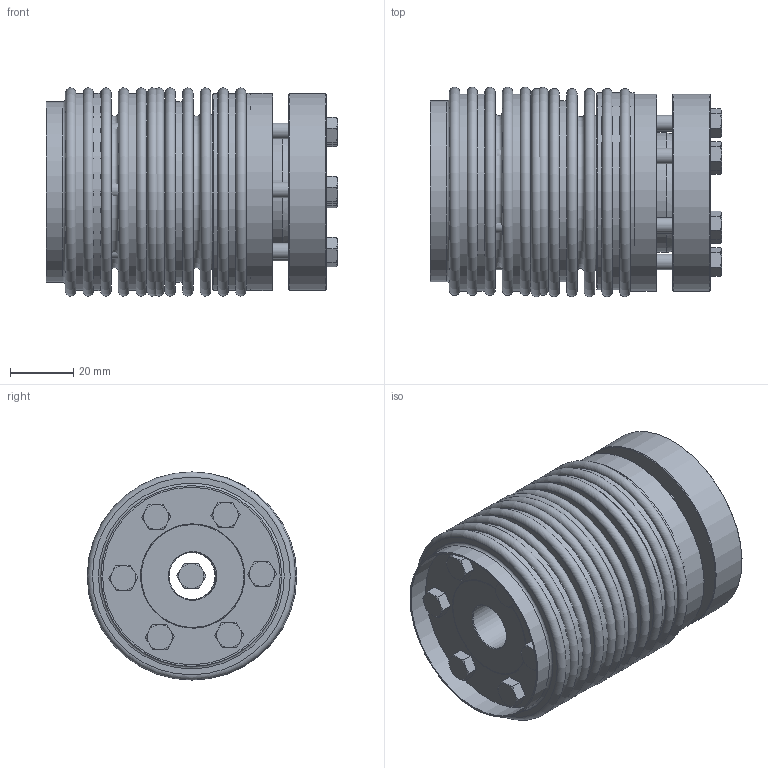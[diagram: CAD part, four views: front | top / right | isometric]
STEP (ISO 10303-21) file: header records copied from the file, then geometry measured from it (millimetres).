
FILE_DESCRIPTION( ( 'Unknown' ), '1' );
FILE_NAME( 'C:/Dokumente und Einstellungen/Sven/Desktop/homepage/cad - homepage/KB6/KB6-60-89.stp', 'Unknown', ( 'Unknown' ), ( 'Unknown' ), 'XStep 1.0', 'Unknown', ' ' );
FILE_SCHEMA( ( 'automotive_design' ) );
Length unit declared in the file: millimetre
Products named in the file (5): Assem1; Hex Screw GradeC_DIN_ISO 4018 - M5 x 25-NN_0; BL60_Standard; DR60_Standard_0; BA60_Standard_0
Bounding box: 92.26 x 66.41 x 66 mm (x, y, z)
Volume: 216696.6 mm3; surface area: 158680.5 mm2
Topology: 21 solids, 21 shells, 419 faces, 847 edges, 534 vertices
Faces by surface type: plane 184, cone 118, cylinder 69, torus 48
Full cylindrical faces by diameter (mm): 4.2 x18, 5 x13, 5.5 x18, 15 x3, 37.937 x3, 56.3 x4, 57.3 x4, 62.5 x6
Entity records: 2900 total; most frequent: DIRECTION 460, CARTESIAN_POINT 401, ORIENTED_EDGE 258, AXIS2_PLACEMENT_3D 224, EDGE_LOOP 212, FACE_OUTER_BOUND 146, EDGE_CURVE 129, VERTEX_POINT 117
